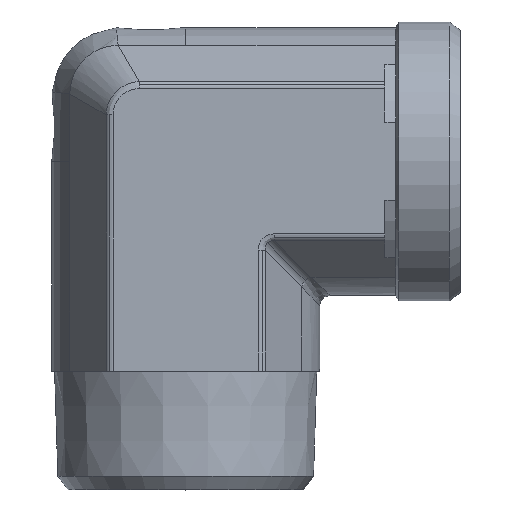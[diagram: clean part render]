
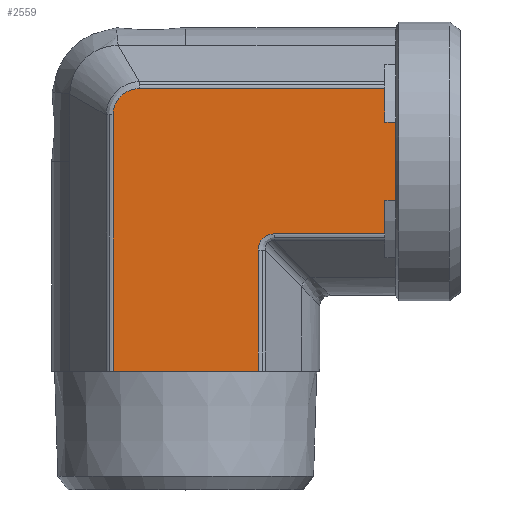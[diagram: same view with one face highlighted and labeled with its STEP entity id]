
A CAD part, top view. The second image highlights one B-rep face of the part: STEP entity #2559.
In plain terms, the highlighted planar face has unit normal (0, 0, 1) as drawn and (0, -1, 0) by its records, which use the part's own axes.
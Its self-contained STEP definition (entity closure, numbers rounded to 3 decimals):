
#361=CARTESIAN_POINT('',(12.027,-24.875,13.496));
#362=VERTEX_POINT('',#361);
#370=CARTESIAN_POINT('',(34.5,-24.875,13.496));
#371=VERTEX_POINT('',#370);
#372=CARTESIAN_POINT('',(12.027,-24.875,13.496));
#373=DIRECTION('',(1.0,0.0,0.0));
#374=VECTOR('',#373,22.473);
#375=LINE('',#372,#374);
#376=EDGE_CURVE('',#362,#371,#375,.T.);
#485=CARTESIAN_POINT('',(-17.996,-24.875,-8.614));
#486=VERTEX_POINT('',#485);
#494=CARTESIAN_POINT('',(-17.996,-24.875,37.0));
#495=VERTEX_POINT('',#494);
#496=CARTESIAN_POINT('',(-17.996,-24.875,-8.614));
#497=DIRECTION('',(0.0,0.0,1.0));
#498=VECTOR('',#497,45.614);
#499=LINE('',#496,#498);
#500=EDGE_CURVE('',#486,#495,#499,.T.);
#1964=CARTESIAN_POINT('',(8.996,-24.875,37.0));
#1965=VERTEX_POINT('',#1964);
#1966=CARTESIAN_POINT('',(2.75,-24.875,37.0));
#1967=VERTEX_POINT('',#1966);
#1968=CARTESIAN_POINT('',(8.996,-24.875,37.0));
#1969=DIRECTION('',(-1.0,0.0,0.0));
#1970=VECTOR('',#1969,6.246);
#1971=LINE('',#1968,#1970);
#1972=EDGE_CURVE('',#1965,#1967,#1971,.T.);
#2023=CARTESIAN_POINT('',(-11.75,-24.875,37.0));
#2024=VERTEX_POINT('',#2023);
#2025=CARTESIAN_POINT('',(-11.75,-24.875,37.0));
#2026=DIRECTION('',(-1.0,0.0,0.0));
#2027=VECTOR('',#2026,6.246);
#2028=LINE('',#2025,#2027);
#2029=EDGE_CURVE('',#2024,#495,#2028,.T.);
#2128=CARTESIAN_POINT('',(2.75,-24.875,39.0));
#2129=VERTEX_POINT('',#2128);
#2130=CARTESIAN_POINT('',(2.75,-24.875,37.0));
#2131=DIRECTION('',(0.0,0.0,1.0));
#2132=VECTOR('',#2131,2.0);
#2133=LINE('',#2130,#2132);
#2134=EDGE_CURVE('',#1967,#2129,#2133,.T.);
#2169=CARTESIAN_POINT('',(-11.75,-24.875,39.0));
#2170=VERTEX_POINT('',#2169);
#2171=CARTESIAN_POINT('',(-11.75,-24.875,39.0));
#2172=DIRECTION('',(0.0,0.0,-1.0));
#2173=VECTOR('',#2172,2.0);
#2174=LINE('',#2171,#2173);
#2175=EDGE_CURVE('',#2170,#2024,#2174,.T.);
#2471=CARTESIAN_POINT('',(-4.5,-24.875,39.0));
#2472=VERTEX_POINT('',#2471);
#2473=CARTESIAN_POINT('',(-4.5,-24.875,39.0));
#2474=DIRECTION('',(-1.0,0.0,0.0));
#2475=VECTOR('',#2474,7.25);
#2476=LINE('',#2473,#2475);
#2477=EDGE_CURVE('',#2472,#2170,#2476,.T.);
#2495=CARTESIAN_POINT('',(-4.5,-24.875,-3.175));
#2496=DIRECTION('',(0.0,-1.0,0.0));
#2497=DIRECTION('',(0.0,0.0,-1.0));
#2498=AXIS2_PLACEMENT_3D('',#2495,#2496,#2497);
#2499=PLANE('',#2498);
#2500=ORIENTED_EDGE('',*,*,#2175,.T.);
#2501=ORIENTED_EDGE('',*,*,#2029,.T.);
#2502=ORIENTED_EDGE('',*,*,#500,.F.);
#2503=CARTESIAN_POINT('',(-13.114,-24.875,-13.496));
#2504=VERTEX_POINT('',#2503);
#2505=CARTESIAN_POINT('',(-17.996,-24.875,-8.614));
#2506=CARTESIAN_POINT('',(-17.996,-24.875,-8.931));
#2507=CARTESIAN_POINT('',(-17.964,-24.875,-9.252));
#2508=CARTESIAN_POINT('',(-17.798,-24.875,-10.069));
#2509=CARTESIAN_POINT('',(-17.618,-24.875,-10.55));
#2510=CARTESIAN_POINT('',(-16.964,-24.875,-11.711));
#2511=CARTESIAN_POINT('',(-16.383,-24.875,-12.319));
#2512=CARTESIAN_POINT('',(-14.915,-24.875,-13.236));
#2513=CARTESIAN_POINT('',(-14.016,-24.875,-13.496));
#2514=CARTESIAN_POINT('',(-13.114,-24.875,-13.496));
#2515=B_SPLINE_CURVE_WITH_KNOTS('',3,(#2505,#2506,#2507,#2508,#2509,#2510,#2511,#2512,#2513,#2514),.UNSPECIFIED.,.F.,.U.,(4,2,2,2,4),(-7.622,-6.669,-5.145,-2.706,0.0),.UNSPECIFIED.);
#2516=EDGE_CURVE('',#2504,#486,#2515,.F.);
#2517=ORIENTED_EDGE('',*,*,#2516,.F.);
#2518=CARTESIAN_POINT('',(34.5,-24.875,-13.496));
#2519=VERTEX_POINT('',#2518);
#2520=CARTESIAN_POINT('',(34.5,-24.875,-13.496));
#2521=DIRECTION('',(-1.0,0.0,0.0));
#2522=VECTOR('',#2521,47.614);
#2523=LINE('',#2520,#2522);
#2524=EDGE_CURVE('',#2519,#2504,#2523,.T.);
#2525=ORIENTED_EDGE('',*,*,#2524,.F.);
#2526=CARTESIAN_POINT('',(34.5,-24.875,-13.496));
#2527=DIRECTION('',(0.0,0.0,1.0));
#2528=VECTOR('',#2527,26.991);
#2529=LINE('',#2526,#2528);
#2530=EDGE_CURVE('',#2519,#371,#2529,.T.);
#2531=ORIENTED_EDGE('',*,*,#2530,.T.);
#2532=ORIENTED_EDGE('',*,*,#376,.F.);
#2533=CARTESIAN_POINT('',(8.996,-24.875,16.527));
#2534=VERTEX_POINT('',#2533);
#2535=CARTESIAN_POINT('',(13.037,-24.875,17.537));
#2536=DIRECTION('',(0.,-1.,0.));
#2537=DIRECTION('',(-0.707,0.,-0.707));
#2538=AXIS2_PLACEMENT_3D('',#2535,#2536,#2537);
#2539=ELLIPSE('',#2538,4.518,3.5);
#2540=EDGE_CURVE('',#2534,#362,#2539,.T.);
#2541=ORIENTED_EDGE('',*,*,#2540,.F.);
#2542=CARTESIAN_POINT('',(8.996,-24.875,37.0));
#2543=DIRECTION('',(0.0,0.0,-1.0));
#2544=VECTOR('',#2543,20.473);
#2545=LINE('',#2542,#2544);
#2546=EDGE_CURVE('',#1965,#2534,#2545,.T.);
#2547=ORIENTED_EDGE('',*,*,#2546,.F.);
#2548=ORIENTED_EDGE('',*,*,#1972,.T.);
#2549=ORIENTED_EDGE('',*,*,#2134,.T.);
#2550=CARTESIAN_POINT('',(2.75,-24.875,39.0));
#2551=DIRECTION('',(-1.0,0.0,0.0));
#2552=VECTOR('',#2551,7.25);
#2553=LINE('',#2550,#2552);
#2554=EDGE_CURVE('',#2129,#2472,#2553,.T.);
#2555=ORIENTED_EDGE('',*,*,#2554,.T.);
#2556=ORIENTED_EDGE('',*,*,#2477,.T.);
#2557=EDGE_LOOP('',(#2500,#2501,#2502,#2517,#2525,#2531,#2532,#2541,#2547,#2548,#2549,#2555,#2556));
#2558=FACE_OUTER_BOUND('',#2557,.T.);
#2559=ADVANCED_FACE('',(#2558),#2499,.T.);
